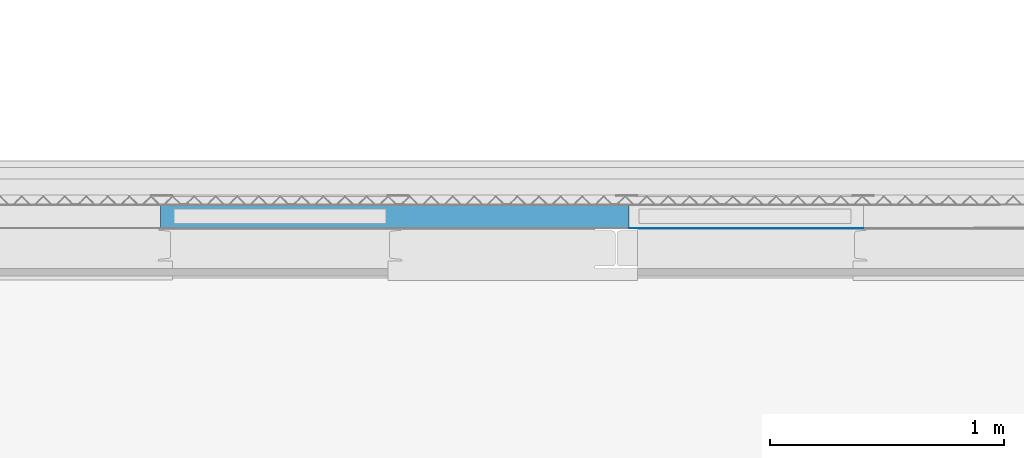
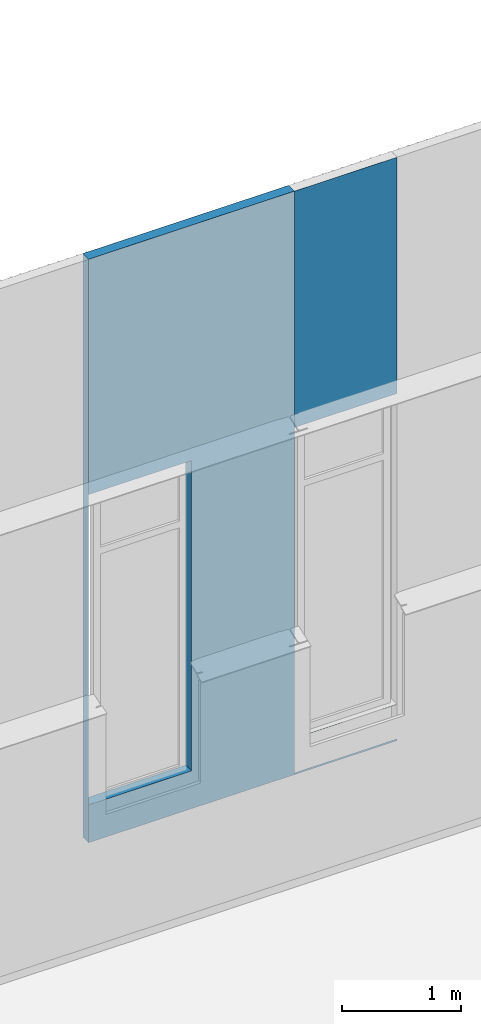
# One storey, part 106 of 338: 2 building element parts, 2 openings, 2 elements without a shape of their own.
"""IFC2X3 building model written with IfcOpenShell, lengths in millimetres."""

from ifc_helpers import new_model, entity, si_unit, converted_unit, derived_unit, money_unit, direction, frame, origin_with_axes, place, context, subcontext, project, spatial, faceted_brep, material, type_object, element, aggregate, save


model = new_model("IFC2X3")

# Units and contexts
model_context = context("Model", 3, precision=0.01, world=origin_with_axes(), true_north=direction((0.0, 1.0)))
plan_context = context("Plan", 3, precision=0.01, world=origin_with_axes(), true_north=direction((0.0, 1.0)))
body_context = subcontext(model_context, "Body", "Model", "MODEL_VIEW")
ifc_project = project(units=[si_unit("LENGTHUNIT", "METRE", prefix="MILLI"), si_unit("AREAUNIT", "SQUARE_METRE"), si_unit("VOLUMEUNIT", "CUBIC_METRE"), converted_unit("PLANEANGLEUNIT", "DEGREE", entity("IfcPlaneAngleMeasure", 0.0174532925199), si_unit("PLANEANGLEUNIT", "RADIAN"), dimensions=[0, 0, 0, 0, 0, 0, 0]), money_unit("EUR"), converted_unit("TIMEUNIT", "Year", entity("IfcTimeMeasure", 31556926.0), si_unit("TIMEUNIT", "SECOND"), dimensions=[0, 0, 1, 0, 0, 0, 0]), si_unit("MASSUNIT", "GRAM", prefix="KILO"), si_unit("THERMODYNAMICTEMPERATUREUNIT", "DEGREE_CELSIUS"), si_unit("LUMINOUSINTENSITYUNIT", "LUMEN"), si_unit("ENERGYUNIT", "JOULE", prefix="MEGA"), derived_unit("THERMALCONDUCTANCEUNIT", [(si_unit("POWERUNIT", "WATT"), 1), (si_unit("LENGTHUNIT", "METRE"), -1), (si_unit("THERMODYNAMICTEMPERATUREUNIT", "KELVIN"), -1)]), derived_unit("SPECIFICHEATCAPACITYUNIT", [(si_unit("ENERGYUNIT", "JOULE"), 1), (si_unit("MASSUNIT", "GRAM", prefix="KILO"), -1), (si_unit("THERMODYNAMICTEMPERATUREUNIT", "KELVIN"), -1)]), derived_unit("MASSDENSITYUNIT", [(si_unit("MASSUNIT", "GRAM", prefix="KILO"), 1), (si_unit("VOLUMEUNIT", "CUBIC_METRE"), -1)])], contexts=[model_context, plan_context])

# Site, building, storey
site_placement = place(None, origin_with_axes())
site = spatial("IfcSite", under=ifc_project, at=site_placement, Name="Fortuinstraat Woensdrecht", CompositionType="ELEMENT")
building_placement = place(site_placement, origin_with_axes())
building = spatial("IfcBuilding", under=site, at=building_placement, Name="IKC Fortuna", CompositionType="ELEMENT")
storey_placement = place(building_placement, origin_with_axes())
storey = spatial("IfcBuildingStorey", under=building, at=storey_placement, Name="00 begane grond", CompositionType="ELEMENT", Elevation=0.0)

# Wall, opening, building element part
wall_type = type_object("IfcWallType", Name="21 sandwich 100", PredefinedType="NOTDEFINED")
wall_1_placement = place(storey_placement, frame((51338.4270571, 35496.2966282, 1000.0), z_axis=(0.0, 0.0, 1.0), x_axis=(1.0, 0.0, 0.0)))
wall_1 = element("IfcWall", 1, at=wall_1_placement, inside=storey, type_object=wall_type, Name="21_Wand_sandwichplaat")
opening_1_placement = place(wall_1_placement, frame((510.014146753, 0.0, 400.0), z_axis=(0.0, 0.0, 1.0), x_axis=(1.0, 0.0, 0.0)))
element("IfcOpeningElement", 2, at=opening_1_placement, cuts=wall_1, Name="31_Raam_A.09", context=body_context, shape_type="Brep", body=[
    faceted_brep([(-510.0, -100.0, -10.0), (-510.0, -100.0, 3180.0), (-510.0, 82.0, 3180.0), (-510.0, 82.0, -10.0), (490.0, -100.0, -10.0), (490.0, -100.0, 3180.0), (490.0, 82.0, 3180.0), (490.0, 82.0, -10.0)], [[[0, 1, 2, 3]], [[0, 4, 5, 1]], [[1, 5, 6, 2]], [[3, 2, 6, 7]], [[4, 0, 3, 7]], [[5, 4, 7, 6]]]),
    faceted_brep([(-510.0, 200.0, 3180.0), (-510.0, 200.0, -10.0), (-510.0, 82.0, -10.0), (-510.0, 82.0, 3180.0), (490.0, 200.0, 3180.0), (490.0, 200.0, -10.0), (490.0, 82.0, -10.0), (490.0, 82.0, 3180.0)], [[[0, 1, 2, 3]], [[0, 4, 5, 1]], [[1, 5, 6, 2]], [[3, 2, 6, 7]], [[4, 0, 3, 7]], [[5, 4, 7, 6]]]),
])
ifc_material_1 = material(Name="Isolatie - Kunststof hard")
building_element_part_1_placement = place(wall_1_placement, origin_with_axes())
building_element_part_1 = element("IfcBuildingElementPart", 3, at=building_element_part_1_placement, material=ifc_material_1, Name="Isolatie - Kunststof hard", context=body_context, shape_type="Brep", body=[
    faceted_brep([(0.0, 0.999999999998, 6000.0), (0.0, 0.999999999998, 0.0), (1999.99999784, 0.999999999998, 0.0), (1999.99999784, 0.999999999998, 6000.0), (0.0141467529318, 0.999999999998, 390.0), (0.0141467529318, 0.999999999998, 3580.0), (1000.01414675, 0.999999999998, 3580.0), (1000.01414675, 0.999999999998, 390.0), (0.0, 99.0, 0.0), (0.0, 99.0, 6000.0), (1999.99999784, 99.0, 0.0), (1999.99999784, 99.0, 6000.0), (0.0141467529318, 99.0, 390.0), (0.0141467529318, 99.0, 3580.0), (1000.01414675, 99.0, 3580.0), (1000.01414675, 99.0, 390.0)], [[[0, 1, 2, 3], [4, 5, 6, 7]], [[8, 1, 0, 9]], [[1, 8, 10, 2]], [[10, 11, 3, 2]], [[9, 0, 3, 11]], [[5, 4, 12, 13]], [[14, 6, 5, 13]], [[15, 7, 6, 14]], [[4, 7, 15, 12]], [[8, 9, 11, 10], [15, 14, 13, 12]]]),
])
aggregate(wall_1, [building_element_part_1])

wall_2_placement = place(storey_placement, frame((53338.427055, 35496.2966283, 1000.0), z_axis=(0.0, 0.0, 1.0), x_axis=(1.0, 0.0, 0.0)))
wall_2 = element("IfcWall", 4, at=wall_2_placement, inside=storey, type_object=wall_type, Name="21_Wand_sandwichplaat")
opening_2_placement = place(wall_2_placement, frame((494.985781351, 0.0, 400.0), z_axis=(0.0, 0.0, 1.0), x_axis=(1.0, 0.0, 0.0)))
element("IfcOpeningElement", 5, at=opening_2_placement, cuts=wall_2, Name="31_Raam_A.09", context=body_context, shape_type="Brep", body=[
    faceted_brep([(-495.0, -100.0, -25.0), (-495.0, -100.0, 3170.0), (-495.0, 82.0, 3170.0), (-495.0, 82.0, -25.0), (505.0, -100.0, -25.0), (505.0, -100.0, 3170.0), (505.0, 82.0, 3170.0), (505.0, 82.0, -25.0)], [[[0, 1, 2, 3]], [[0, 4, 5, 1]], [[1, 5, 6, 2]], [[3, 2, 6, 7]], [[4, 0, 3, 7]], [[5, 4, 7, 6]]]),
    faceted_brep([(-495.0, 200.0, 3170.0), (-495.0, 200.0, -25.0), (-495.0, 82.0, -25.0), (-495.0, 82.0, 3170.0), (505.0, 200.0, 3170.0), (505.0, 200.0, -25.0), (505.0, 82.0, -25.0), (505.0, 82.0, 3170.0)], [[[0, 1, 2, 3]], [[0, 4, 5, 1]], [[1, 5, 6, 2]], [[3, 2, 6, 7]], [[4, 0, 3, 7]], [[5, 4, 7, 6]]]),
])
ifc_material_2 = material(Name="Metaal - Aluminium")
building_element_part_2_placement = place(wall_2_placement, origin_with_axes())
building_element_part_2 = element("IfcBuildingElementPart", 6, at=building_element_part_2_placement, material=ifc_material_2, Name="Metaal - Aluminium", context=body_context, shape_type="Brep", body=[
    faceted_brep([(0.0, 0.999999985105, 375.0), (999.985781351, 0.999999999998, 375.0), (999.985781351, 0.999999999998, 3570.0), (0.0, 0.999999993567, 3570.0), (0.0, 0.999999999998, 6000.0), (1000.0000021, 0.999999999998, 6000.0), (1000.0000021, 0.999999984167, 19.9966193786), (1000.0000021, 0.996442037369, 0.0), (0.0, 0.996442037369, 0.0), (0.0, 0.999999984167, 19.9966193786), (0.0, 0.0, 375.0), (999.985781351, 0.0, 375.0), (999.985781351, 0.0, 3570.0), (0.0, 0.0, 3570.0), (0.0, 0.0, 6000.0), (1000.0000021, 0.0, 6000.0), (1000.0000021, 0.0, 19.996797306), (0.0, 0.0, 19.996797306)], [[[0, 1, 2, 3, 4, 5, 6, 7, 8, 9]], [[1, 0, 10, 11]], [[2, 1, 11, 12]], [[3, 2, 12, 13]], [[3, 13, 14, 4]], [[4, 14, 15, 5]], [[6, 5, 15, 16]], [[6, 9, 8, 7]], [[10, 0, 9, 17]], [[11, 10, 17, 16, 15, 14, 13, 12]], [[16, 17, 9, 6]]]),
])
aggregate(wall_2, [building_element_part_2])

save(model, "model.ifc")
